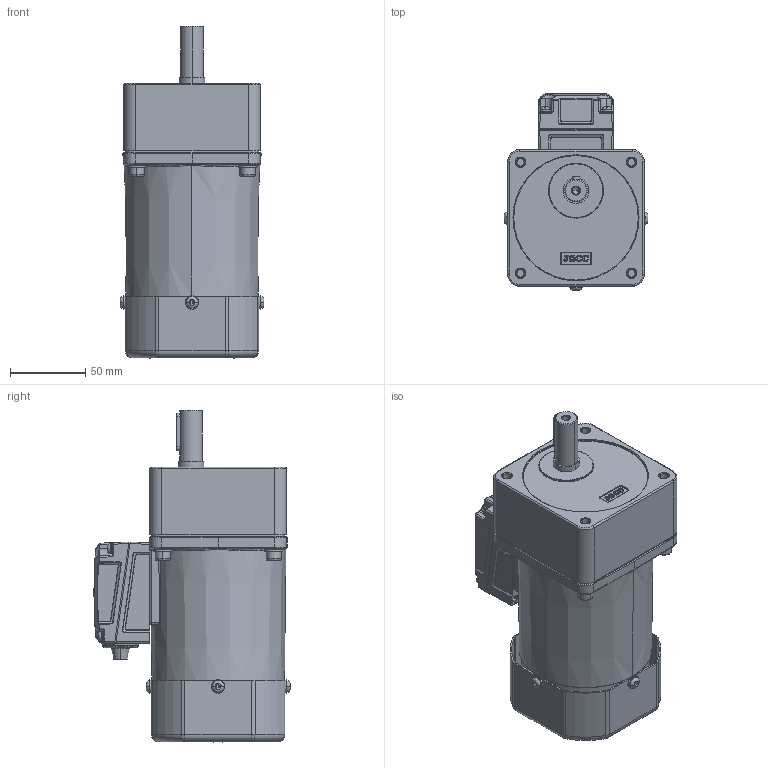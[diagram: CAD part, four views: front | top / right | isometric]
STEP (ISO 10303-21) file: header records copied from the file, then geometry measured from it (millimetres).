
FILE_DESCRIPTION( ('This file contains a STEP AP42 implementation' ,'as created by ZW3D STEP Interface translator.' ,'') ,'2;1' );
FILE_NAME( '60yt01-18.stp' ,'24 712.11 923', (''), ('ZWCAD Software Co.'), 'Version 1.0', 'ZW3D to STEP translator', '' );
FILE_SCHEMA(('AUTOMOTIVE_DESIGN { 1 0 10303 214 1 1 1 1 }'));
Length unit declared in the file: millimetre
Products named in the file (7): 0; 60yt01-18; 90YT60G_ASM; 90YT60G; YCX_6-200; 3D-JXH-150_300; 90GK-H-18
Assembly tree (5 placements, depth 3):
  0
  60yt01-18
    90YT60G_ASM
      90YT60G
      YCX_6-200
    3D-JXH-150_300
    90GK-H-18
Bounding box: 95.3 x 129.9 x 220 mm (x, y, z)
Volume: 580169.5 mm3; surface area: 201668.8 mm2
Topology: 4 solids, 12 shells, 2345 faces, 5722 edges, 3477 vertices
Faces by surface type: cylinder 777, plane 696, bspline 645, cone 109, torus 96, sphere 22
Entity records: 116941 total; most frequent: CARTESIAN_POINT 65266, ORIENTED_EDGE 11404, DIRECTION 8652, EDGE_CURVE 5702, VERTEX_POINT 3477, AXIS2_PLACEMENT_3D 3315, EDGE_LOOP 2521, FACE_OUTER_BOUND 2345
